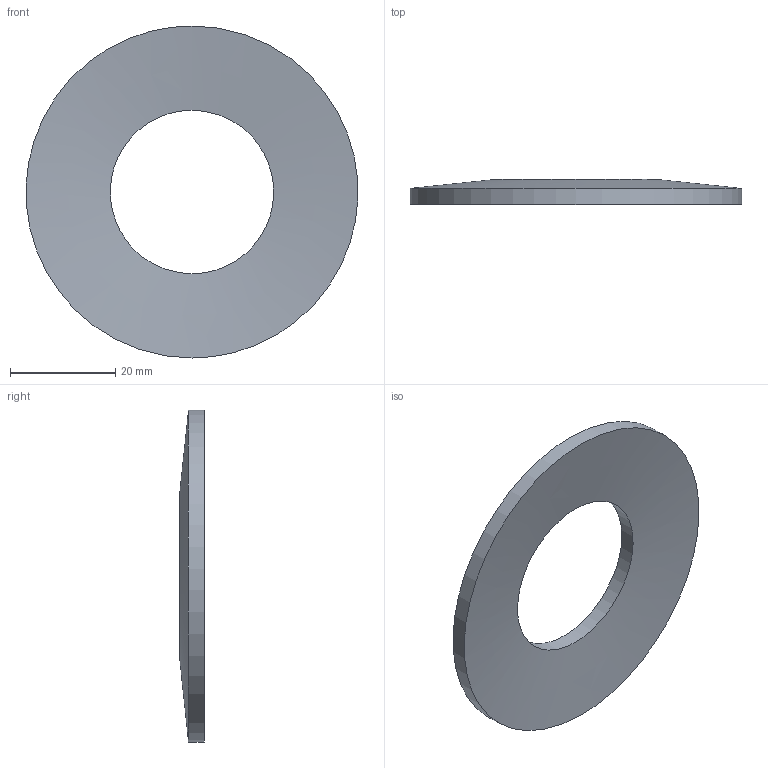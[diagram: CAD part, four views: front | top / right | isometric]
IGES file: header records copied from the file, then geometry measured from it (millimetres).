
Global section: file name: ST.0630.0310.0300; native system: Autodesk Inventor 2026; preprocessor: unknown; author: J. Iwanek; date: 20260918.103228; units: millimetre
Bounding box: 62.94 x 4.7 x 63 mm (x, y, z)
Volume: 7129.1 mm3; surface area: 5643.9 mm2
Topology: 1 solids, 1 shells, 4 faces, 12 edges, 8 vertices
Faces by surface type: bspline 4
